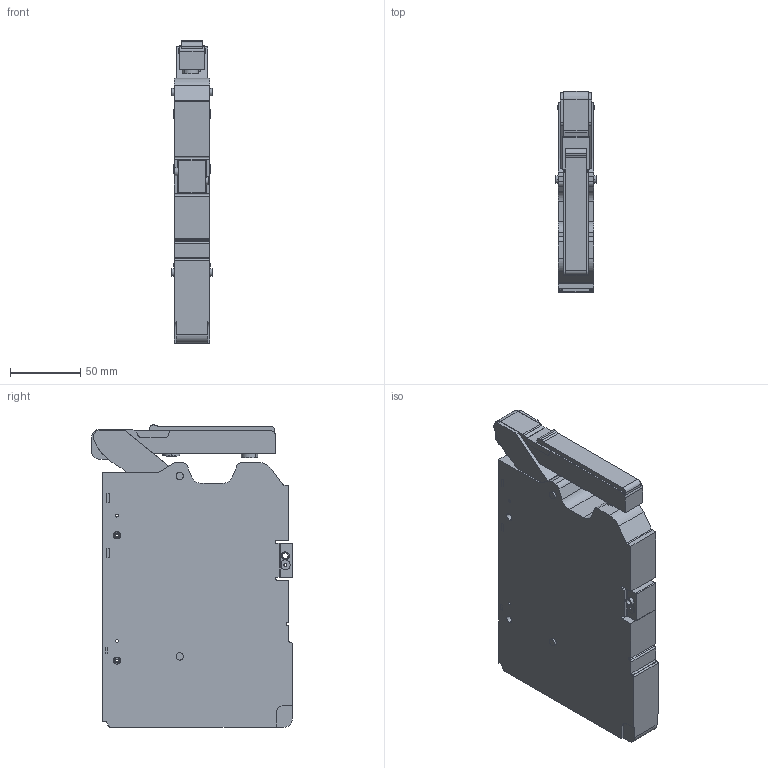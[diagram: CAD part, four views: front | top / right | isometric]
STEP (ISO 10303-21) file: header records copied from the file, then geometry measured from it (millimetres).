
FILE_DESCRIPTION (( 'STEP AP214' ), '1' );
FILE_NAME ('SF00AD(L,M,H)-close.STEP', '2021-04-10T02:15:06', ( 'Windows 蚚誧' ), ( '' ), 'SwSTEP 2.0', 'SolidWorks 2018', '' );
FILE_SCHEMA (( 'AUTOMOTIVE_DESIGN' ));
Length unit declared in the file: millimetre
Products named in the file (1): SF00AD(L,M,H)-close
Bounding box: 28.6 x 142.49 x 214.62 mm (x, y, z)
Volume: 655546.2 mm3; surface area: 77991.6 mm2
Topology: 1 solids, 2 shells, 253 faces, 686 edges, 454 vertices
Faces by surface type: plane 120, cylinder 117, cone 6, bspline 6, torus 4
Entity records: 10092 total; most frequent: CARTESIAN_POINT 1501, DIRECTION 1420, ORIENTED_EDGE 1372, EDGE_CURVE 686, AXIS2_PLACEMENT_3D 501, VERTEX_POINT 454, VECTOR 418, LINE 418
